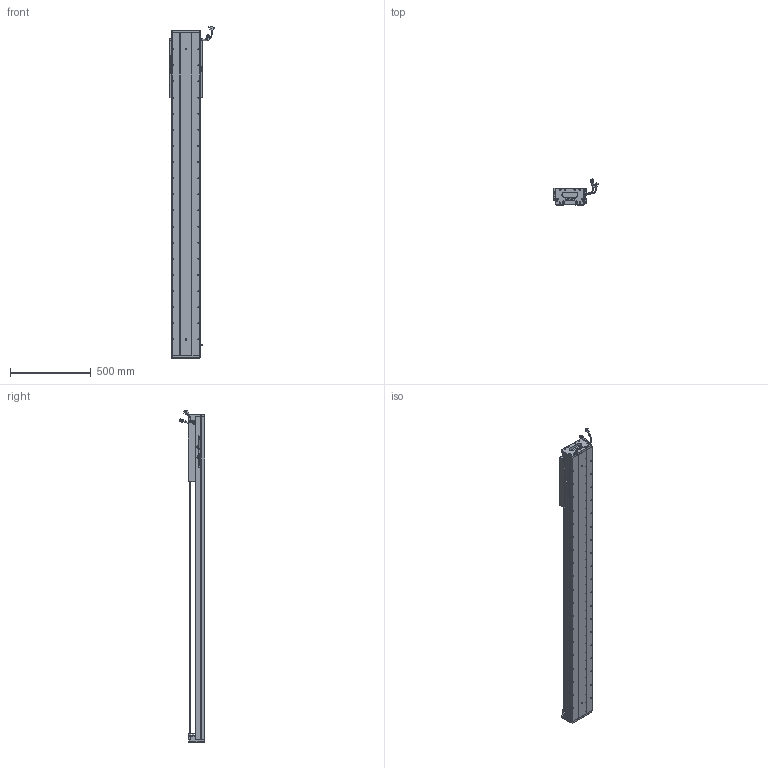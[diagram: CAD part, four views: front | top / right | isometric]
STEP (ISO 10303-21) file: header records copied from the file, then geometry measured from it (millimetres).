
FILE_DESCRIPTION (( 'STEP AP203' ), '1' );
FILE_NAME ('Z5-RY170D-1-L500-B-K.SLDASM_1550.step', '2021-05-18T00:41:08', ( '盈信电脑' ), ( '东莞市道滘镇水果街19号' ), 'SwSTEP 2.0', 'SolidWorks 2016', '' );
FILE_SCHEMA (( 'CONFIG_CONTROL_DESIGN' ));
Length unit declared in the file: millimetre
Products named in the file (36): LABEL; Z5-RY170臏賑輸(21遴); 080黍杅芛假蚾釱21遴; SCALE-Part-1; 榋妏寠巭燃_暯_M2_2; Z5-RY170-L500詩湍145mm遵_1550; SEAL; Z-170詩湍傷裔啣; 覜茼ん672; Z-RY170詩湍奻揤裔; SHIELDPLATE; SCALE; HARNESS-Part-2; HOLDER0; SEAL-Part-1; COVER; Z5-RY170D-1-L500-B-K.SLDASM_1550; PSLH080_PSLF2; COVER-Part-1; HARNESS-Part-1; LABEL-Part-1; SCREW-M1.6; SCREW-M1.6-1; 140雄赽晤鎢ん堤盄; 140蚥薯蝶輸; HARNESS; PBU_SHEET; SCREW-M1.6-2; SCREW-M1.7; SCREW-M1.7-1; Z5-RY170-L500耀郪菁釱_1550; 170-Z-臏賑輸盄裔(21遴); SCALE-Part-2; RY170直线电机感应器672光电感应片; SCREW-M1.6-3; Z-RY170詩湍狟揤裔
Assembly tree (41 placements, depth 4):
  Z5-RY170D-1-L500-B-K.SLDASM_1550
    Z5-RY170-L500耀郪菁釱_1550
    RY170直线电机感应器672光电感应片
    Z5-RY170臏賑輸(21遴)
    覜茼ん672  x3
    PSLH080_PSLF2
      SCALE
        SCALE-Part-1
        SCALE-Part-2
      HARNESS
        HARNESS-Part-1
        HARNESS-Part-2
      LABEL
        LABEL-Part-1
      COVER
        COVER-Part-1
      SEAL
        SEAL-Part-1
      榋妏寠巭燃_暯_M2_2
      SHIELDPLATE
      SCREW-M1.7
      SCREW-M1.7-1
      PBU_SHEET
      SCREW-M1.6
      SCREW-M1.6-1
      SCREW-M1.6-2
      SCREW-M1.6-3
      HOLDER0
    080黍杅芛假蚾釱21遴
    Z5-RY170-L500詩湍145mm遵_1550
    Z-170詩湍傷裔啣  x2
    Z-RY170詩湍奻揤裔  x2
    Z-RY170詩湍狟揤裔  x2
    140蚥薯蝶輸  x2
    170-Z-臏賑輸盄裔(21遴)
    140雄赽晤鎢ん堤盄
Bounding box: 275.34 x 158.11 x 2058.72 mm (x, y, z)
Volume: 11181155.5 mm3; surface area: 2671805.2 mm2
Topology: 36 solids, 36 shells, 3746 faces, 10235 edges, 6405 vertices
Faces by surface type: cylinder 1838, plane 1270, cone 516, torus 69, bspline 53
Entity records: 114987 total; most frequent: CARTESIAN_POINT 30824, ORIENTED_EDGE 17058, DIRECTION 16333, EDGE_CURVE 8529, AXIS2_PLACEMENT_3D 6036, VERTEX_POINT 5523, VECTOR 4261, LINE 4261
